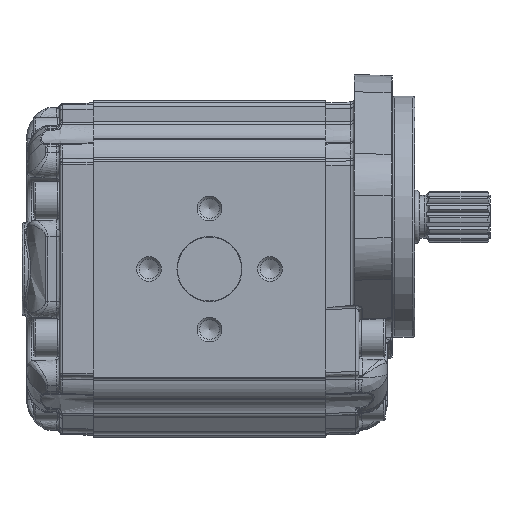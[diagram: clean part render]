
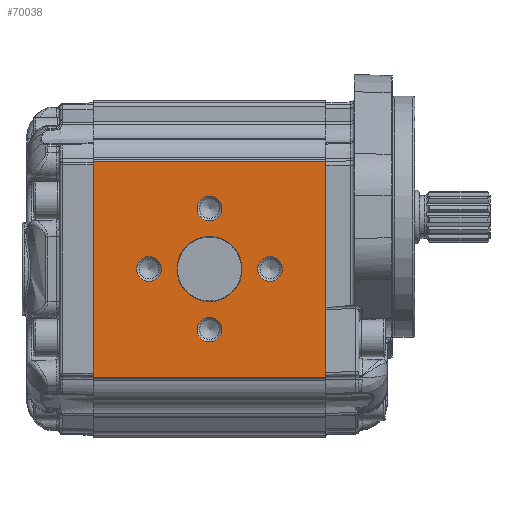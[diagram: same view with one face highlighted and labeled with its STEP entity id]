
A CAD part, left-side view. The second image highlights one B-rep face of the part: STEP entity #70038.
In plain terms, the highlighted planar face has unit normal (-1, 0, 0).
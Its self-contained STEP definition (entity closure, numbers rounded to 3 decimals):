
#8116=LINE('',#122494,#10130);
#8127=LINE('',#122579,#10141);
#8165=LINE('',#122687,#10179);
#8166=LINE('',#122688,#10180);
#10130=VECTOR('',#77578,1000.);
#10141=VECTOR('',#77653,1000.);
#10179=VECTOR('',#77779,1000.);
#10180=VECTOR('',#77780,1000.);
#16502=ORIENTED_EDGE('',*,*,#29295,.T.);
#16503=ORIENTED_EDGE('',*,*,#29296,.T.);
#16504=ORIENTED_EDGE('',*,*,#29297,.T.);
#16505=ORIENTED_EDGE('',*,*,#29298,.T.);
#16506=ORIENTED_EDGE('',*,*,#29299,.T.);
#16507=ORIENTED_EDGE('',*,*,#29199,.F.);
#16508=ORIENTED_EDGE('',*,*,#29300,.T.);
#16509=ORIENTED_EDGE('',*,*,#29241,.F.);
#16510=ORIENTED_EDGE('',*,*,#29301,.T.);
#29199=EDGE_CURVE('',#35924,#35925,#8116,.T.);
#29241=EDGE_CURVE('',#35966,#35967,#8127,.T.);
#29295=EDGE_CURVE('',#35988,#35988,#39783,.F.);
#29296=EDGE_CURVE('',#35989,#35989,#39784,.F.);
#29297=EDGE_CURVE('',#35990,#35990,#39785,.F.);
#29298=EDGE_CURVE('',#35991,#35991,#39786,.F.);
#29299=EDGE_CURVE('',#35992,#35992,#39787,.F.);
#29300=EDGE_CURVE('',#35924,#35967,#8165,.F.);
#29301=EDGE_CURVE('',#35966,#35925,#8166,.F.);
#35924=VERTEX_POINT('',#122493);
#35925=VERTEX_POINT('',#122495);
#35966=VERTEX_POINT('',#122578);
#35967=VERTEX_POINT('',#122580);
#35988=VERTEX_POINT('',#122678);
#35989=VERTEX_POINT('',#122680);
#35990=VERTEX_POINT('',#122682);
#35991=VERTEX_POINT('',#122684);
#35992=VERTEX_POINT('',#122686);
#39783=CIRCLE('',#73301,5.188);
#39784=CIRCLE('',#73302,5.188);
#39785=CIRCLE('',#73303,5.188);
#39786=CIRCLE('',#73304,5.188);
#39787=CIRCLE('',#73305,13.7);
#41124=EDGE_LOOP('',(#16502));
#41125=EDGE_LOOP('',(#16503));
#41126=EDGE_LOOP('',(#16504));
#41127=EDGE_LOOP('',(#16505));
#41128=EDGE_LOOP('',(#16506));
#41129=EDGE_LOOP('',(#16507,#16508,#16509,#16510));
#44483=FACE_BOUND('',#41124,.T.);
#44484=FACE_BOUND('',#41125,.T.);
#44485=FACE_BOUND('',#41126,.T.);
#44486=FACE_BOUND('',#41127,.T.);
#44487=FACE_BOUND('',#41128,.T.);
#44488=FACE_BOUND('',#41129,.T.);
#46924=PLANE('',#73300);
#70038=ADVANCED_FACE('',(#44483,#44484,#44485,#44486,#44487,#44488),#46924,
 .T.);
#73300=AXIS2_PLACEMENT_3D('',#122676,#77767,#77768);
#73301=AXIS2_PLACEMENT_3D('',#122677,#77769,#77770);
#73302=AXIS2_PLACEMENT_3D('',#122679,#77771,#77772);
#73303=AXIS2_PLACEMENT_3D('',#122681,#77773,#77774);
#73304=AXIS2_PLACEMENT_3D('',#122683,#77775,#77776);
#73305=AXIS2_PLACEMENT_3D('',#122685,#77777,#77778);
#77578=DIRECTION('',(0.,0.,1.));
#77653=DIRECTION('',(0.,0.,-1.));
#77767=DIRECTION('',(-1.,0.,0.));
#77768=DIRECTION('',(0.,0.,-1.));
#77769=DIRECTION('',(-1.,0.,0.));
#77770=DIRECTION('',(0.,0.,-1.));
#77771=DIRECTION('',(-1.,0.,0.));
#77772=DIRECTION('',(0.,0.,-1.));
#77773=DIRECTION('',(-1.,0.,0.));
#77774=DIRECTION('',(0.,0.,-1.));
#77775=DIRECTION('',(-1.,0.,0.));
#77776=DIRECTION('',(0.,0.,-1.));
#77777=DIRECTION('',(-1.,0.,0.));
#77778=DIRECTION('',(0.,0.,-1.));
#77779=DIRECTION('',(0.,1.,0.));
#77780=DIRECTION('',(0.,-1.,0.));
#122493=CARTESIAN_POINT('',(-57.5,98.,-45.5));
#122494=CARTESIAN_POINT('',(-57.5,98.,-84.819));
#122495=CARTESIAN_POINT('',(-57.5,98.,45.5));
#122578=CARTESIAN_POINT('',(-57.5,0.,45.5));
#122579=CARTESIAN_POINT('',(-57.5,0.,-44.978));
#122580=CARTESIAN_POINT('',(-57.5,0.,-45.5));
#122676=CARTESIAN_POINT('',(-57.5,-135.113,-84.819));
#122677=CARTESIAN_POINT('',(-57.5,49.,25.5));
#122678=CARTESIAN_POINT('',(-57.5,49.,20.312));
#122679=CARTESIAN_POINT('',(-57.5,74.5,0.));
#122680=CARTESIAN_POINT('',(-57.5,74.5,-5.188));
#122681=CARTESIAN_POINT('',(-57.5,49.,-25.5));
#122682=CARTESIAN_POINT('',(-57.5,49.,-30.688));
#122683=CARTESIAN_POINT('',(-57.5,23.5,0.));
#122684=CARTESIAN_POINT('',(-57.5,23.5,-5.188));
#122685=CARTESIAN_POINT('',(-57.5,49.,0.));
#122686=CARTESIAN_POINT('',(-57.5,49.,-13.7));
#122687=CARTESIAN_POINT('',(-57.5,-135.113,-45.5));
#122688=CARTESIAN_POINT('',(-57.5,-135.113,45.5));
